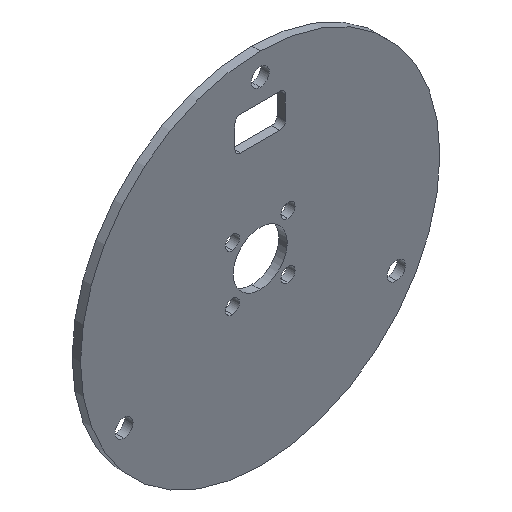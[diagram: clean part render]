
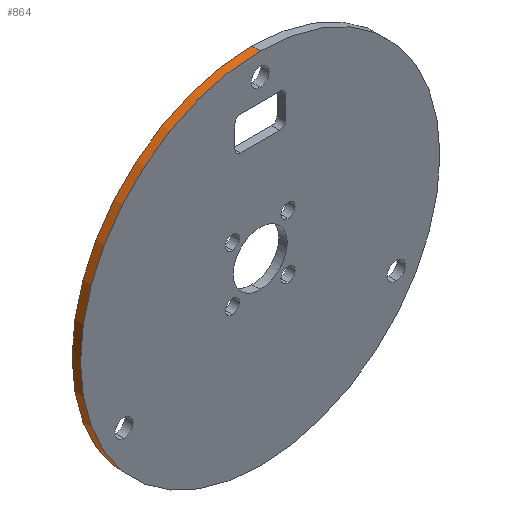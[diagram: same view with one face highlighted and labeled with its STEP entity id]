
A CAD part, isometric view. The second image highlights one B-rep face of the part: STEP entity #864.
In plain terms, the highlighted cylindrical face has radius 32 mm (diameter 64 mm), a partial arc.
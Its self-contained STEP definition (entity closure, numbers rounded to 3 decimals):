
#6 = CARTESIAN_POINT ( 'NONE',  ( 0., -1.5, 0. ) ) ;
#40 = AXIS2_PLACEMENT_3D ( 'NONE', #6, #465, #314 ) ;
#75 = CARTESIAN_POINT ( 'NONE',  ( 0., -1.5, -32. ) ) ;
#96 = CARTESIAN_POINT ( 'NONE',  ( 0., -1.5, 32. ) ) ;
#124 = VECTOR ( 'NONE', #989, 1000. ) ;
#183 = DIRECTION ( 'NONE',  ( 0., 1., 0. ) ) ;
#200 = CIRCLE ( 'NONE', #599, 32. ) ;
#225 = EDGE_CURVE ( 'NONE', #564, #285, #879, .T. ) ;
#230 = CARTESIAN_POINT ( 'NONE',  ( 0., -1.5, 0. ) ) ;
#281 = LINE ( 'NONE', #884, #430 ) ;
#285 = VERTEX_POINT ( 'NONE', #341 ) ;
#314 = DIRECTION ( 'NONE',  ( 0., 0., 1. ) ) ;
#341 = CARTESIAN_POINT ( 'NONE',  ( 0., 0., 32. ) ) ;
#342 = EDGE_CURVE ( 'NONE', #577, #285, #281, .T. ) ;
#404 = CARTESIAN_POINT ( 'NONE',  ( 0., 0., 0. ) ) ;
#430 = VECTOR ( 'NONE', #585, 1000. ) ;
#453 = LINE ( 'NONE', #764, #124 ) ;
#465 = DIRECTION ( 'NONE',  ( 0., 1., 0. ) ) ;
#474 = AXIS2_PLACEMENT_3D ( 'NONE', #404, #183, #714 ) ;
#482 = CARTESIAN_POINT ( 'NONE',  ( 0., 0., -32. ) ) ;
#516 = ORIENTED_EDGE ( 'NONE', *, *, #342, .T. ) ;
#564 = VERTEX_POINT ( 'NONE', #482 ) ;
#577 = VERTEX_POINT ( 'NONE', #96 ) ;
#585 = DIRECTION ( 'NONE',  ( 0., 1., 0. ) ) ;
#599 = AXIS2_PLACEMENT_3D ( 'NONE', #230, #720, #793 ) ;
#615 = FACE_OUTER_BOUND ( 'NONE', #957, .T. ) ;
#664 = ORIENTED_EDGE ( 'NONE', *, *, #225, .F. ) ;
#714 = DIRECTION ( 'NONE',  ( 0., 0., 1. ) ) ;
#720 = DIRECTION ( 'NONE',  ( 0., 1., 0. ) ) ;
#736 = ORIENTED_EDGE ( 'NONE', *, *, #940, .T. ) ;
#764 = CARTESIAN_POINT ( 'NONE',  ( 0., -1.5, -32. ) ) ;
#784 = CYLINDRICAL_SURFACE ( 'NONE', #40, 32. ) ;
#793 = DIRECTION ( 'NONE',  ( 0., 0., 1. ) ) ;
#864 = ADVANCED_FACE ( 'NONE', ( #615 ), #784, .T. ) ;
#866 = ORIENTED_EDGE ( 'NONE', *, *, #934, .F. ) ;
#875 = VERTEX_POINT ( 'NONE', #75 ) ;
#879 = CIRCLE ( 'NONE', #474, 32. ) ;
#884 = CARTESIAN_POINT ( 'NONE',  ( 0., -1.5, 32. ) ) ;
#934 = EDGE_CURVE ( 'NONE', #875, #564, #453, .T. ) ;
#940 = EDGE_CURVE ( 'NONE', #875, #577, #200, .T. ) ;
#957 = EDGE_LOOP ( 'NONE', ( #866, #736, #516, #664 ) ) ;
#989 = DIRECTION ( 'NONE',  ( 0., 1., 0. ) ) ;
